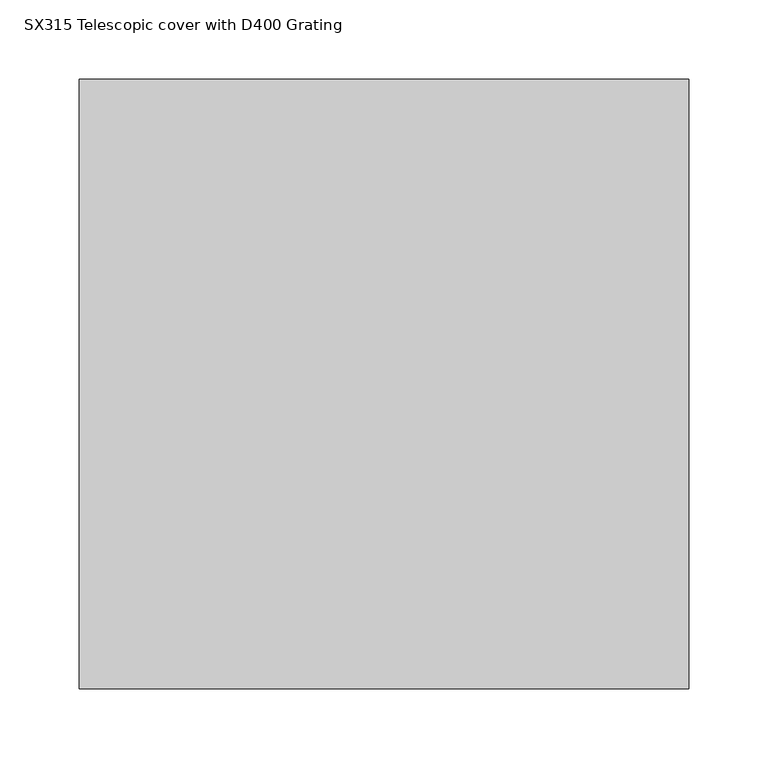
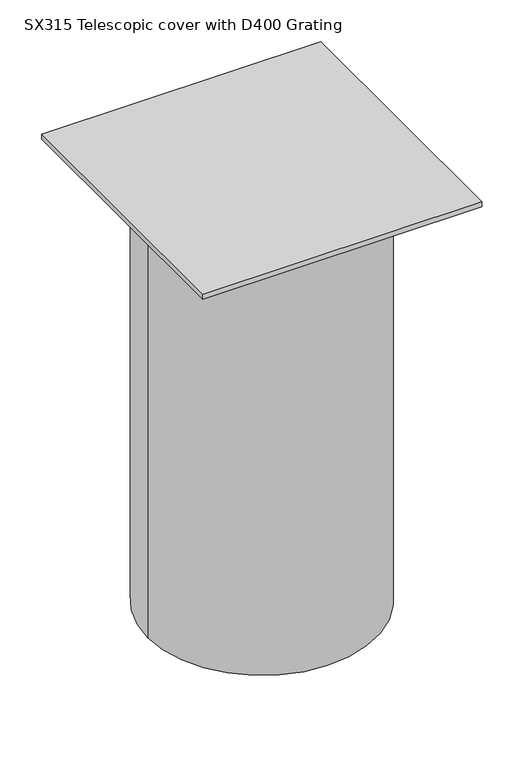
"""IFC4 building model written with IfcOpenShell, lengths in millimetres: pipe fitting geometry, Z_PIF_UN_Q-Bic_Plus_Telescopic_Square_Cover_Wavin_(nested) : SX315 Telescopic cover with D400 Grating."""

from ifc_helpers import new_model, si_unit, frame, origin, place, context, project, spatial, polyline, circle_curve, outline, extrude, source, transform, mapped, element, save
from ifc_brep_helpers import plane_surface, cylinder_surface, revolved_surface, advanced_brep


def sx315_telescopic_cover_with_d400_grating_073f188a(model_context):
    return source(origin(), model_context, "Body", "SolidModel", [
        advanced_brep(
        [(-149.8, 0.0, -7.0), (149.8, 0.0, -7.0), (157.5, 0.0, -7.0), (-157.5, 0.0, -7.0), (-149.8, 0.0, -630.0), (149.8, 0.0, -630.0), (-157.5, 0.0, -630.0), (157.5, 0.0, -630.0)],
        [
            (0, 1, circle_curve(frame((0.0, 0.0, -7.0), z_axis=(0.0, 0.0, -1.0), x_axis=(1.0, 0.0, 0.0)), 149.8)),
            (1, 2),
            (2, 3, circle_curve(frame((0.0, 0.0, -7.0), z_axis=(0.0, 0.0, 1.0), x_axis=(1.0, 0.0, 0.0)), 157.5)),
            (3, 0),
            (1, 0, circle_curve(frame((0.0, 0.0, -7.0), z_axis=(0.0, 0.0, -1.0), x_axis=(1.0, 0.0, 0.0)), 149.8)),
            (3, 2, circle_curve(frame((0.0, 0.0, -7.0), z_axis=(0.0, 0.0, 1.0), x_axis=(1.0, 0.0, 0.0)), 157.5)),
            (4, 5, circle_curve(frame((0.0, 0.0, -630.0), z_axis=(0.0, 0.0, -1.0), x_axis=(1.0, 0.0, 0.0)), 149.8)),
            (5, 1),
            (0, 4),
            (5, 4, circle_curve(frame((0.0, 0.0, -630.0), z_axis=(0.0, 0.0, -1.0), x_axis=(1.0, 0.0, 0.0)), 149.8)),
            (6, 7, circle_curve(frame((0.0, 0.0, -630.0), z_axis=(0.0, 0.0, -1.0), x_axis=(1.0, 0.0, 0.0)), 157.5)),
            (7, 5),
            (4, 6),
            (7, 6, circle_curve(frame((0.0, 0.0, -630.0), z_axis=(0.0, 0.0, -1.0), x_axis=(1.0, 0.0, 0.0)), 157.5)),
            (2, 7),
            (6, 3),
        ],
        [
            plane_surface(frame((0.0, 0.0, -7.0), z_axis=(0.0, 0.0, 1.0), x_axis=(1.0, 0.0, 0.0))),
            revolved_surface(polyline([(149.8, 0.0, -7.0), (149.8, 0.0, -630.0)]), (0.0, 0.0, -7.0), (0.0, 0.0, 1.0)),
            plane_surface(frame((0.0, 0.0, -630.0), z_axis=(0.0, 0.0, -1.0), x_axis=(1.0, 0.0, 0.0))),
            cylinder_surface(frame((0.0, 0.0, -7.0), z_axis=(0.0, 0.0, 1.0), x_axis=(1.0, 0.0, 0.0)), 157.5),
        ],
        [
            (0, [[1, 2, 3, 4]]),
            (0, [[5, -4, 6, -2]]),
            (1, [[7, 8, -1, 9]]),
            (1, [[10, -9, -5, -8]]),
            (2, [[11, 12, -7, 13]]),
            (2, [[14, -13, -10, -12]]),
            (3, [[-3, 15, -11, 16]]),
            (3, [[-6, -16, -14, -15]]),
        ],
    ),
        extrude(outline(polyline([(192.5, 192.5), (192.5, -192.5), (-192.5, -192.5), (-192.5, 192.5), (192.5, 192.5)])), frame((0.0, 0.0, -7.0), z_axis=(0.0, 0.0, 1.0), x_axis=(1.0, 0.0, 0.0)), (0.0, 0.0, 1.0), 7.0),
    ])


if __name__ == "__main__":
    model = new_model("IFC4")
    model_context = context("Model", 3, world=origin())
    ifc_project = project(units=[si_unit("LENGTHUNIT", "METRE", prefix="MILLI")], contexts=[model_context])
    site = spatial("IfcSite", under=ifc_project)
    building = spatial("IfcBuilding", under=site)
    placement = place(None, origin())
    sx315_telescopic_cover_with_d400_grating_shape = sx315_telescopic_cover_with_d400_grating_073f188a(model_context)
    element("IfcPipeFitting", 1, ObjectType="Z_PIF_UN_Q-Bic_Plus_Telescopic_Square_Cover_Wavin_(nested) : SX315 Telescopic cover with D400 Grating", at=placement, inside=building, context=model_context, shape_type="MappedRepresentation", body=[
        mapped(sx315_telescopic_cover_with_d400_grating_shape, transform((0.0, 0.0, 0.0), x_axis=(1.0, 0.0, 0.0), y_axis=(0.0, 1.0, 0.0), z_axis=(0.0, 0.0, 1.0))),
    ])
    save(model, "model.ifc")
